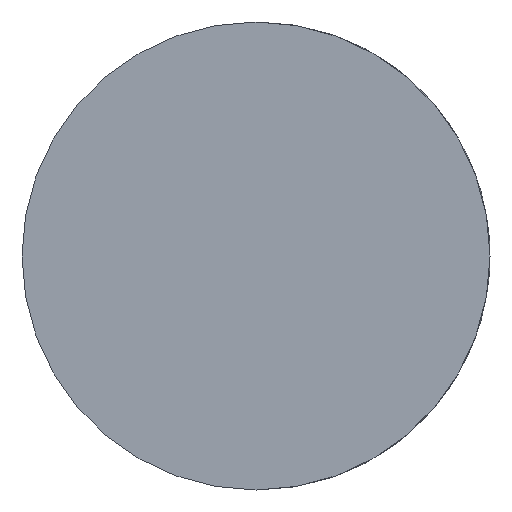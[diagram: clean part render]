
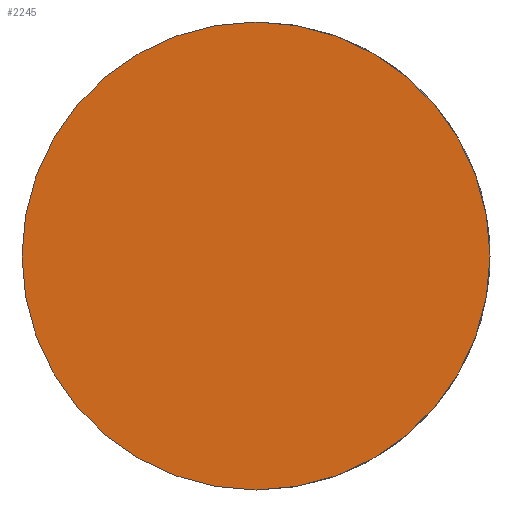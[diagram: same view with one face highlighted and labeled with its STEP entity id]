
A CAD part, front view. The second image highlights one B-rep face of the part: STEP entity #2245.
In plain terms, the highlighted planar face has unit normal (0, -1, 0).
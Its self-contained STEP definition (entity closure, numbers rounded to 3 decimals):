
#71 = CIRCLE ( 'NONE', #1786, 40. ) ;
#89 = DIRECTION ( 'NONE',  ( 0., -1., 0. ) ) ;
#405 = VERTEX_POINT ( 'NONE', #1861 ) ;
#422 = CARTESIAN_POINT ( 'NONE',  ( 0., 0., 0. ) ) ;
#688 = DIRECTION ( 'NONE',  ( 0., 0., -1. ) ) ;
#754 = EDGE_CURVE ( 'NONE', #405, #1308, #71, .T. ) ;
#775 = CIRCLE ( 'NONE', #1674, 40. ) ;
#822 = DIRECTION ( 'NONE',  ( 0., -1., 0. ) ) ;
#975 = EDGE_CURVE ( 'NONE', #1308, #405, #775, .T. ) ;
#993 = ORIENTED_EDGE ( 'NONE', *, *, #975, .T. ) ;
#1135 = DIRECTION ( 'NONE',  ( 0., 0., -1. ) ) ;
#1308 = VERTEX_POINT ( 'NONE', #1703 ) ;
#1528 = PLANE ( 'NONE',  #1653 ) ;
#1653 = AXIS2_PLACEMENT_3D ( 'NONE', #422, #89, #1135 ) ;
#1674 = AXIS2_PLACEMENT_3D ( 'NONE', #2286, #822, #688 ) ;
#1683 = ORIENTED_EDGE ( 'NONE', *, *, #754, .T. ) ;
#1703 = CARTESIAN_POINT ( 'NONE',  ( 0., 0., 40. ) ) ;
#1786 = AXIS2_PLACEMENT_3D ( 'NONE', #1966, #1954, #2145 ) ;
#1861 = CARTESIAN_POINT ( 'NONE',  ( 0., 0., -40. ) ) ;
#1937 = EDGE_LOOP ( 'NONE', ( #993, #1683 ) ) ;
#1954 = DIRECTION ( 'NONE',  ( 0., -1., 0. ) ) ;
#1966 = CARTESIAN_POINT ( 'NONE',  ( 0., 0., 0. ) ) ;
#2014 = FACE_OUTER_BOUND ( 'NONE', #1937, .T. ) ;
#2145 = DIRECTION ( 'NONE',  ( 0., 0., -1. ) ) ;
#2245 = ADVANCED_FACE ( 'NONE', ( #2014 ), #1528, .T. ) ;
#2286 = CARTESIAN_POINT ( 'NONE',  ( 0., 0., 0. ) ) ;
